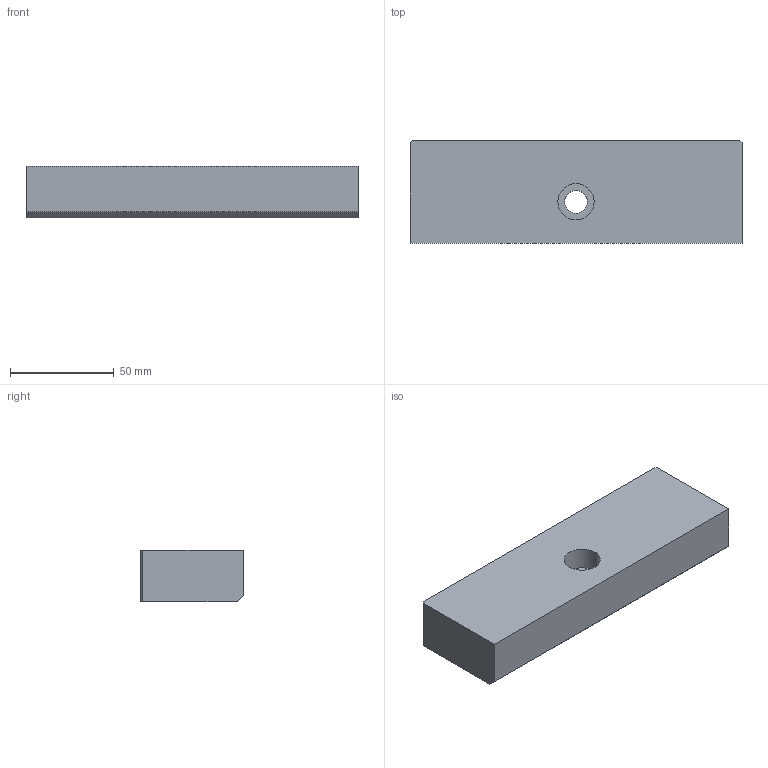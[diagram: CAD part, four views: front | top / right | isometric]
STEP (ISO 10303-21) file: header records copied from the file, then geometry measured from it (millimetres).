
FILE_DESCRIPTION((''),'2;1');
FILE_NAME('FG_VC_BASIC_C0037NP001','2026-02-23T17:24:55',('Admin'),(''),'CREO PARAMETRIC BY PTC INC, 2025010','CREO PARAMETRIC BY PTC INC, 2025010','');
FILE_SCHEMA(('CONFIG_CONTROL_DESIGN'));
Length unit declared in the file: millimetre
Products named in the file (1): FG_VC_BASIC_C0037NP001
Bounding box: 160 x 49.5 x 25 mm (x, y, z)
Volume: 193278.7 mm3; surface area: 26892 mm2
Topology: 1 solids, 1 shells, 14 faces, 33 edges, 22 vertices
Faces by surface type: plane 10, cylinder 4
Entity records: 447 total; most frequent: CARTESIAN_POINT 69, DIRECTION 69, ORIENTED_EDGE 66, EDGE_CURVE 33, VECTOR 25, LINE 25, AXIS2_PLACEMENT_3D 22, VERTEX_POINT 22
